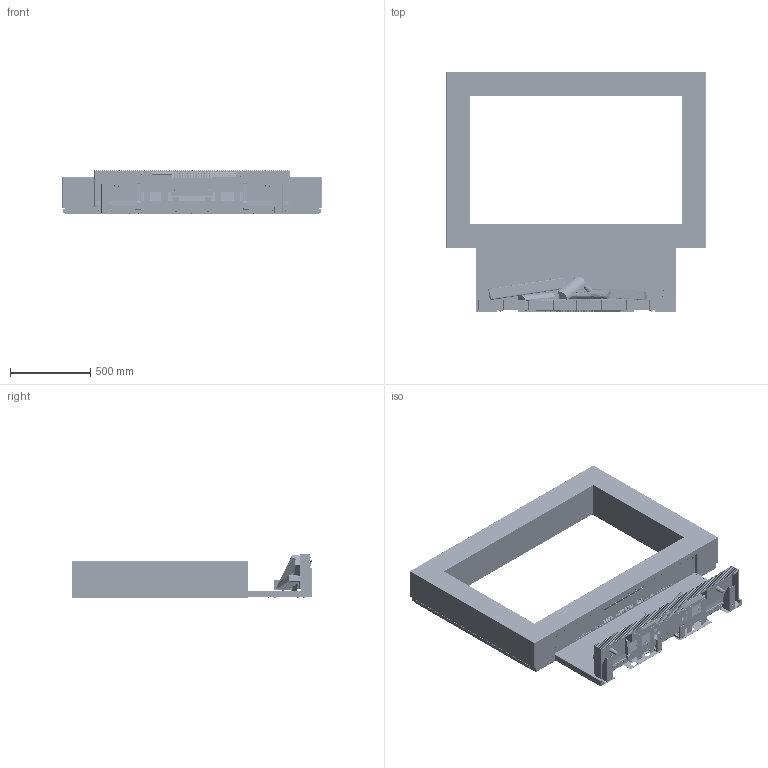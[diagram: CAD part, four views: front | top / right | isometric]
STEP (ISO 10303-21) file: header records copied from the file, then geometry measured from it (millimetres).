
FILE_DESCRIPTION (( 'STEP AP203' ), '1' );
FILE_NAME ('E Series E55 Media Wall with LED.STEP', '2024-03-12T09:20:25', ( '' ), ( '' ), 'SwSTEP 2.0', 'SolidWorks 2020', '' );
FILE_SCHEMA (( 'CONFIG_CONTROL_DESIGN' ));
Length unit declared in the file: millimetre
Products named in the file (90): KF06088; KF06057; KF05852; KF06605; KF04003; KF05861; KF06350; KF05845; KF06357; KF06109; KF04009; KF06603; KF05836; KF05976; KF05834_KALFIRE E55 ; KF05910; KF06364; KF05961; KF06555; KF06460; KF06353; KF04074; KF05904; KF06572; KF04020; KF06604; KF05848_Built in ; KF06545; KF06368; KF06239; KF05869; KF04164; KF06717_Left - Bend ; KF06351; KF05870; KF05915; KF05862; KF05902; KF06608; KF05850_Inschijner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
Assembly tree (230 placements, depth 7):
  E Series E55 Media Wall with LED
    KF05834_KALFIRE E55 
      KF05850_Inschijner
        KF05976
        KF06110
          KF05853
          KF06109
        KF06111
          KF05852
          KF06109
        KF06679  x2
      KF05836
      KF06215
        KF06362
          KF05846  x2
            KF05847
            KF06057
            KF04020
            KF06545
          KF05912
            KF05904
            KF04020  x9
          KF05903
          KF05919
            KF05902
            KF04020  x3
            KF04060  x4
          KF05910
            KF05901
            KF04079  x2
            KF04020  x3
          KF05909
            KF05900
            KF04079  x2
            KF04020  x3
          KF05917_Built in
            KF05848_Built in 
            KF04020  x2
            KF04003  x4
          KF06368
            KF06364
          KF06370
            KF06369
            KF04020
          KF06125
          KF06124
          KF06460  x2
          KF06681
            KF06683_Built in
            KF06684_Built in
            KF06717_Left - Bend 
            KF06717_Right - Bend
        KF06459
          KF06550
            KF06083_Built in version
              KF05962_Hand set bends
              KF04020  x2
            KF05964
              KF05961
              KF04221  x10
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Bounding box: 1620 x 1501 x 277.5 mm (x, y, z)
Volume: 61716989.9 mm3; surface area: 14829211.9 mm2
Topology: 237 solids, 286 shells, 13942 faces, 34932 edges, 21958 vertices
Faces by surface type: plane 8619, cylinder 3521, cone 1296, bspline 281, torus 151, sphere 74
Entity records: 316488 total; most frequent: CARTESIAN_POINT 74533, ORIENTED_EDGE 47698, DIRECTION 47238, EDGE_CURVE 23849, VECTOR 17040, LINE 17040, AXIS2_PLACEMENT_3D 15099, VERTEX_POINT 14867
